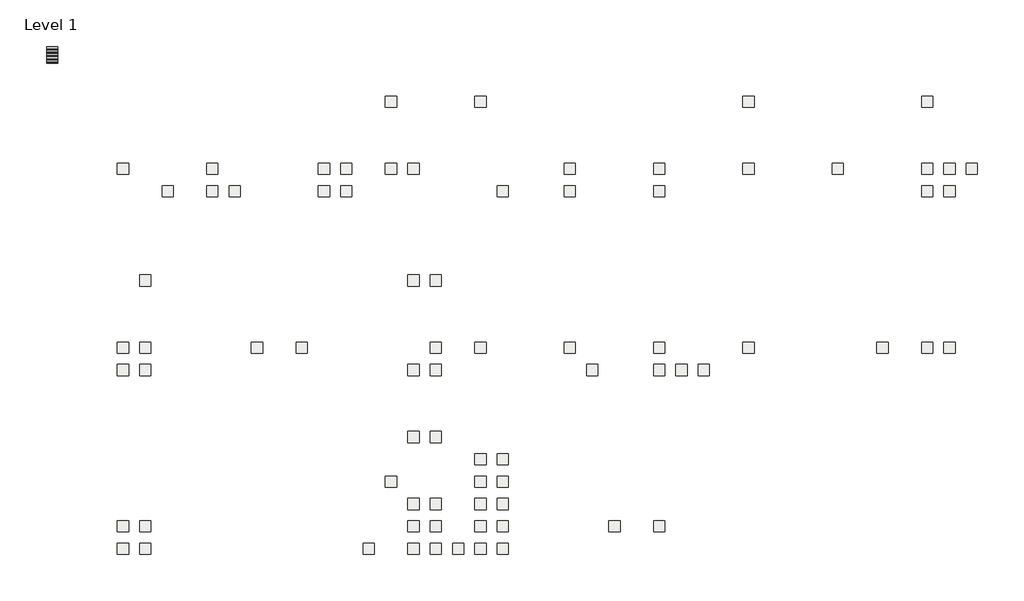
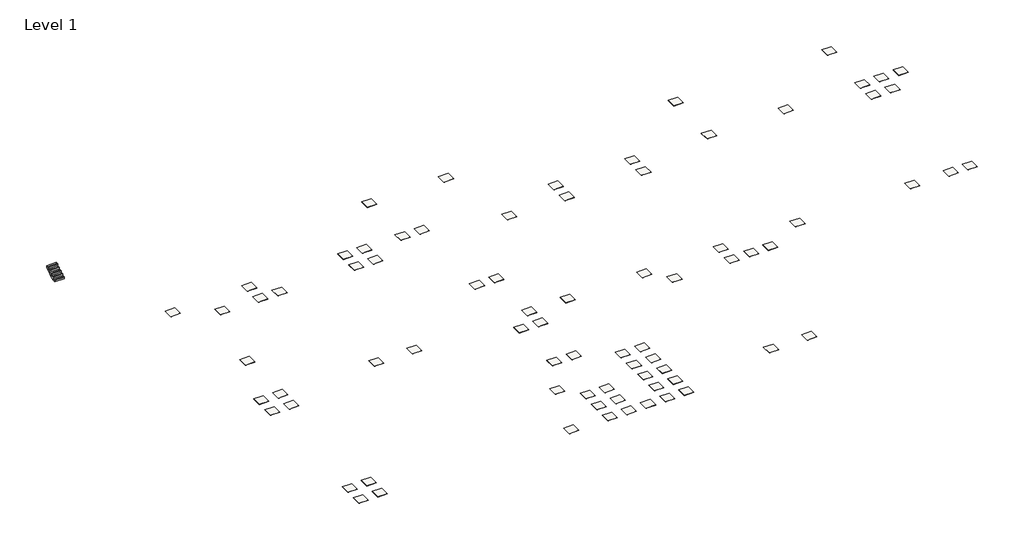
# One storey: 77 coverings, 1 stair flight.
"""IFC4 building model written with IfcOpenShell, lengths in millimetres."""

from ifc_helpers import new_model, si_unit, frame, origin, place, context, project, spatial, polyline, outline, extrude, faceted_brep, element, save

model = new_model("IFC4")

# Units and contexts
model_context = context("Model", 3, world=origin())
ifc_project = project(units=[si_unit("LENGTHUNIT", "METRE", prefix="MILLI")], contexts=[model_context])

# Site, building, storey
site = spatial("IfcSite", under=ifc_project)
building = spatial("IfcBuilding", under=site)
storey = spatial("IfcBuildingStorey", under=building, Name="Level 1", Elevation=0.0)

# Coverings
placement = place(None, origin())
element("IfcCovering", 1, ObjectType="REVIGRÉS-CROMATICA-DG-29.5x59.2-MATTRECT-Cromatica_alloy", at=placement, inside=storey, context=model_context, shape_type="SweptSolid", body=[
    extrude(outline(polyline([(3002.0475963, -31601.5675711), (2002.0475963, -31601.5675711), (2002.0475963, -30601.5675711), (3002.0475963, -30601.5675711), (3002.0475963, -31601.5675711)])), frame((0.0, 0.0, -8.5), z_axis=(0.0, 0.0, 1.0), x_axis=(1.0, 0.0, 0.0)), (0.0, 0.0, 1.0), 8.5),
])
element("IfcCovering", 2, ObjectType="REVIGRÉS-CROMATICA-DG-29.5x29.5-MATTRECT-Cromatica_anis", at=placement, inside=storey, context=model_context, shape_type="SweptSolid", body=[
    extrude(outline(polyline([(11002.0475963, -33601.5675711), (10002.0475963, -33601.5675711), (10002.0475963, -32601.5675711), (11002.0475963, -32601.5675711), (11002.0475963, -33601.5675711)])), frame((0.0, 0.0, -8.5), z_axis=(0.0, 0.0, 1.0), x_axis=(1.0, 0.0, 0.0)), (0.0, 0.0, 1.0), 8.5),
])
element("IfcCovering", 3, ObjectType="REVIGRÉS-CROMATICA-DG-29.5x29.5-POL-Cromatica_anis", at=placement, inside=storey, context=model_context, shape_type="SweptSolid", body=[
    extrude(outline(polyline([(13002.0475963, -33601.5675711), (12002.0475963, -33601.5675711), (12002.0475963, -32601.5675711), (13002.0475963, -32601.5675711), (13002.0475963, -33601.5675711)])), frame((0.0, 0.0, -8.0), z_axis=(0.0, 0.0, 1.0), x_axis=(1.0, 0.0, 0.0)), (0.0, 0.0, 1.0), 8.0),
])
element("IfcCovering", 4, ObjectType="REVIGRÉS-CROMATICA-DG-29.5x29.5-POL-Cromatica_antracite", at=placement, inside=storey, context=model_context, shape_type="SweptSolid", body=[
    extrude(outline(polyline([(21002.0475963, -33601.5675711), (20002.0475963, -33601.5675711), (20002.0475963, -32601.5675711), (21002.0475963, -32601.5675711), (21002.0475963, -33601.5675711)])), frame((0.0, 0.0, -8.0), z_axis=(0.0, 0.0, 1.0), x_axis=(1.0, 0.0, 0.0)), (0.0, 0.0, 1.0), 8.0),
])
element("IfcCovering", 5, ObjectType="REVIGRÉS-CROMATICA-DG-29.5x29.5-SOFT-Cromatica_antracite", at=placement, inside=storey, context=model_context, shape_type="SweptSolid", body=[
    extrude(outline(polyline([(23002.0475963, -33601.5675711), (22002.0475963, -33601.5675711), (22002.0475963, -32601.5675711), (23002.0475963, -32601.5675711), (23002.0475963, -33601.5675711)])), frame((0.0, 0.0, -8.5), z_axis=(0.0, 0.0, 1.0), x_axis=(1.0, 0.0, 0.0)), (0.0, 0.0, 1.0), 8.5),
])
element("IfcCovering", 6, ObjectType="REVIGRÉS-CROMATICA-DG-29.5x59.2-POL-Cromatica_antracite", at=placement, inside=storey, context=model_context, shape_type="SweptSolid", body=[
    extrude(outline(polyline([(21002.0475963, -31601.5675711), (20002.0475963, -31601.5675711), (20002.0475963, -30601.5675711), (21002.0475963, -30601.5675711), (21002.0475963, -31601.5675711)])), frame((0.0, 0.0, -8.0), z_axis=(0.0, 0.0, 1.0), x_axis=(1.0, 0.0, 0.0)), (0.0, 0.0, 1.0), 8.0),
])
element("IfcCovering", 7, ObjectType="REVIGRÉS-CROMATICA-DG-29.5x59.2-SOFT-Cromatica_antracite", at=placement, inside=storey, context=model_context, shape_type="SweptSolid", body=[
    extrude(outline(polyline([(23002.0475963, -31601.5675711), (22002.0475963, -31601.5675711), (22002.0475963, -30601.5675711), (23002.0475963, -30601.5675711), (23002.0475963, -31601.5675711)])), frame((0.0, 0.0, -8.5), z_axis=(0.0, 0.0, 1.0), x_axis=(1.0, 0.0, 0.0)), (0.0, 0.0, 1.0), 8.5),
])
element("IfcCovering", 8, ObjectType="REVIGRÉS-CROMATICA-DG-29.5x59.2-MATTRECT-Cromatica_arg prata", at=placement, inside=storey, context=model_context, shape_type="SweptSolid", body=[
    extrude(outline(polyline([(27002.0475963, -31601.5675711), (26002.0475963, -31601.5675711), (26002.0475963, -30601.5675711), (27002.0475963, -30601.5675711), (27002.0475963, -31601.5675711)])), frame((0.0, 0.0, -8.5), z_axis=(0.0, 0.0, 1.0), x_axis=(1.0, 0.0, 0.0)), (0.0, 0.0, 1.0), 8.5),
])
element("IfcCovering", 9, ObjectType="REVIGRÉS-CROMATICA-DG-29.5x59.2-POL-Cromatica_arg prata", at=placement, inside=storey, context=model_context, shape_type="SweptSolid", body=[
    extrude(outline(polyline([(29002.0475963, -31601.5675711), (28002.0475963, -31601.5675711), (28002.0475963, -30601.5675711), (29002.0475963, -30601.5675711), (29002.0475963, -31601.5675711)])), frame((0.0, 0.0, -8.0), z_axis=(0.0, 0.0, 1.0), x_axis=(1.0, 0.0, 0.0)), (0.0, 0.0, 1.0), 8.0),
])
element("IfcCovering", 10, ObjectType="REVIGRÉS-CROMATICA-DG-59.2x59.2-MATTRECT-Cromatica_arg prata", at=placement, inside=storey, context=model_context, shape_type="SweptSolid", body=[
    extrude(outline(polyline([(27002.0475963, -25601.5675711), (26002.0475963, -25601.5675711), (26002.0475963, -24601.5675711), (27002.0475963, -24601.5675711), (27002.0475963, -25601.5675711)])), frame((0.0, 0.0, -8.5), z_axis=(0.0, 0.0, 1.0), x_axis=(1.0, 0.0, 0.0)), (0.0, 0.0, 1.0), 8.5),
])
element("IfcCovering", 11, ObjectType="REVIGRÉS-CROMATICA-DG-29.5x29.5-POL-Cromatica_bege", at=placement, inside=storey, context=model_context, shape_type="SweptSolid", body=[
    extrude(outline(polyline([(37002.0475963, -33601.5675711), (36002.0475963, -33601.5675711), (36002.0475963, -32601.5675711), (37002.0475963, -32601.5675711), (37002.0475963, -33601.5675711)])), frame((0.0, 0.0, -8.0), z_axis=(0.0, 0.0, 1.0), x_axis=(1.0, 0.0, 0.0)), (0.0, 0.0, 1.0), 8.0),
])
element("IfcCovering", 12, ObjectType="REVIGRÉS-CROMATICA-DG-29.5x29.5-MATTRECT-Cromatica_bone", at=placement, inside=storey, context=model_context, shape_type="SweptSolid", body=[
    extrude(outline(polyline([(43002.0475963, -33601.5675711), (42002.0475963, -33601.5675711), (42002.0475963, -32601.5675711), (43002.0475963, -32601.5675711), (43002.0475963, -33601.5675711)])), frame((0.0, 0.0, -8.5), z_axis=(0.0, 0.0, 1.0), x_axis=(1.0, 0.0, 0.0)), (0.0, 0.0, 1.0), 8.5),
])
element("IfcCovering", 13, ObjectType="REVIGRÉS-CROMATICA-DG-29.5x59.2-MATTRECT-Cromatica_bone", at=placement, inside=storey, context=model_context, shape_type="SweptSolid", body=[
    extrude(outline(polyline([(43002.0475963, -31601.5675711), (42002.0475963, -31601.5675711), (42002.0475963, -30601.5675711), (43002.0475963, -30601.5675711), (43002.0475963, -31601.5675711)])), frame((0.0, 0.0, -8.5), z_axis=(0.0, 0.0, 1.0), x_axis=(1.0, 0.0, 0.0)), (0.0, 0.0, 1.0), 8.5),
])
element("IfcCovering", 14, ObjectType="REVIGRÉS-CROMATICA-DG-29.5x29.5-MATTRECT-Cromatica_brick", at=placement, inside=storey, context=model_context, shape_type="SweptSolid", body=[
    extrude(outline(polyline([(51002.0475963, -33601.5675711), (50002.0475963, -33601.5675711), (50002.0475963, -32601.5675711), (51002.0475963, -32601.5675711), (51002.0475963, -33601.5675711)])), frame((0.0, 0.0, -8.5), z_axis=(0.0, 0.0, 1.0), x_axis=(1.0, 0.0, 0.0)), (0.0, 0.0, 1.0), 8.5),
])
element("IfcCovering", 15, ObjectType="REVIGRÉS-CROMATICA-DG-29.5x59.2-MATTRECT-Cromatica_brick", at=placement, inside=storey, context=model_context, shape_type="SweptSolid", body=[
    extrude(outline(polyline([(51002.0475963, -31601.5675711), (50002.0475963, -31601.5675711), (50002.0475963, -30601.5675711), (51002.0475963, -30601.5675711), (51002.0475963, -31601.5675711)])), frame((0.0, 0.0, -8.5), z_axis=(0.0, 0.0, 1.0), x_axis=(1.0, 0.0, 0.0)), (0.0, 0.0, 1.0), 8.5),
])
element("IfcCovering", 16, ObjectType="REVIGRÉS-CROMATICA-DG-29.5x59.2-MATTRECT-Cromatica_cobalto", at=placement, inside=storey, context=model_context, shape_type="SweptSolid", body=[
    extrude(outline(polyline([(59002.0475963, -31601.567571), (58002.0475963, -31601.567571), (58002.0475963, -30601.567571), (59002.0475963, -30601.567571), (59002.0475963, -31601.567571)])), frame((0.0, 0.0, -8.5), z_axis=(0.0, 0.0, 1.0), x_axis=(1.0, 0.0, 0.0)), (0.0, 0.0, 1.0), 8.5),
])
element("IfcCovering", 17, ObjectType="REVIGRÉS-CROMATICA-DG-59.2x59.2-MATTRECT-Cromatica_cobalto", at=placement, inside=storey, context=model_context, shape_type="SweptSolid", body=[
    extrude(outline(polyline([(59002.0475963, -25601.567571), (58002.0475963, -25601.567571), (58002.0475963, -24601.567571), (59002.0475963, -24601.567571), (59002.0475963, -25601.567571)])), frame((0.0, 0.0, -8.5), z_axis=(0.0, 0.0, 1.0), x_axis=(1.0, 0.0, 0.0)), (0.0, 0.0, 1.0), 8.5),
])
element("IfcCovering", 18, ObjectType="REVIGRÉS-CROMATICA-DG-29.5x59.2-MATTRECT-Cromatica_coral", at=placement, inside=storey, context=model_context, shape_type="SweptSolid", body=[
    extrude(outline(polyline([(67002.0475963, -31601.567571), (66002.0475963, -31601.567571), (66002.0475963, -30601.567571), (67002.0475963, -30601.567571), (67002.0475963, -31601.567571)])), frame((0.0, 0.0, -8.5), z_axis=(0.0, 0.0, 1.0), x_axis=(1.0, 0.0, 0.0)), (0.0, 0.0, 1.0), 8.5),
])
element("IfcCovering", 19, ObjectType="REVIGRÉS-CROMATICA-DG-29.5x29.5-MATTRECT-Cromatica_grafite", at=placement, inside=storey, context=model_context, shape_type="SweptSolid", body=[
    extrude(outline(polyline([(75002.0475963, -33601.567571), (74002.0475963, -33601.567571), (74002.0475963, -32601.567571), (75002.0475963, -32601.567571), (75002.0475963, -33601.567571)])), frame((0.0, 0.0, -8.5), z_axis=(0.0, 0.0, 1.0), x_axis=(1.0, 0.0, 0.0)), (0.0, 0.0, 1.0), 8.5),
])
element("IfcCovering", 20, ObjectType="REVIGRÉS-CROMATICA-DG-29.5x29.5-POL-Cromatica_grafite", at=placement, inside=storey, context=model_context, shape_type="SweptSolid", body=[
    extrude(outline(polyline([(77002.0475963, -33601.567571), (76002.0475963, -33601.567571), (76002.0475963, -32601.567571), (77002.0475963, -32601.567571), (77002.0475963, -33601.567571)])), frame((0.0, 0.0, -8.0), z_axis=(0.0, 0.0, 1.0), x_axis=(1.0, 0.0, 0.0)), (0.0, 0.0, 1.0), 8.0),
])
element("IfcCovering", 21, ObjectType="REVIGRÉS-CROMATICA-DG-29.5x59.2-MATTRECT-Cromatica_grafite", at=placement, inside=storey, context=model_context, shape_type="SweptSolid", body=[
    extrude(outline(polyline([(75002.0475963, -31601.567571), (74002.0475963, -31601.567571), (74002.0475963, -30601.567571), (75002.0475963, -30601.567571), (75002.0475963, -31601.567571)])), frame((0.0, 0.0, -8.5), z_axis=(0.0, 0.0, 1.0), x_axis=(1.0, 0.0, 0.0)), (0.0, 0.0, 1.0), 8.5),
])
element("IfcCovering", 22, ObjectType="REVIGRÉS-CROMATICA-DG-29.5x59.2-POL-Cromatica_grafite", at=placement, inside=storey, context=model_context, shape_type="SweptSolid", body=[
    extrude(outline(polyline([(77002.0475963, -31601.567571), (76002.0475963, -31601.567571), (76002.0475963, -30601.567571), (77002.0475963, -30601.567571), (77002.0475963, -31601.567571)])), frame((0.0, 0.0, -8.0), z_axis=(0.0, 0.0, 1.0), x_axis=(1.0, 0.0, 0.0)), (0.0, 0.0, 1.0), 8.0),
])
element("IfcCovering", 23, ObjectType="REVIGRÉS-CROMATICA-DG-59.2x59.2-MATTRECT-Cromatica_grafite", at=placement, inside=storey, context=model_context, shape_type="SweptSolid", body=[
    extrude(outline(polyline([(75002.0475963, -25601.567571), (74002.0475963, -25601.567571), (74002.0475963, -24601.567571), (75002.0475963, -24601.567571), (75002.0475963, -25601.567571)])), frame((0.0, 0.0, -8.5), z_axis=(0.0, 0.0, 1.0), x_axis=(1.0, 0.0, 0.0)), (0.0, 0.0, 1.0), 8.5),
])
element("IfcCovering", 24, ObjectType="REVIGRÉS-CROMATICA-DG-29.5x29.5-MATTRECT-Cromatica_ice", at=placement, inside=storey, context=model_context, shape_type="SweptSolid", body=[
    extrude(outline(polyline([(3002.0475963, -49601.567571), (2002.0475963, -49601.567571), (2002.0475963, -48601.567571), (3002.0475963, -48601.567571), (3002.0475963, -49601.567571)])), frame((0.0, 0.0, -8.5), z_axis=(0.0, 0.0, 1.0), x_axis=(1.0, 0.0, 0.0)), (0.0, 0.0, 1.0), 8.5),
])
element("IfcCovering", 25, ObjectType="REVIGRÉS-CROMATICA-DG-29.5x29.5-POL-Cromatica_ice", at=placement, inside=storey, context=model_context, shape_type="SweptSolid", body=[
    extrude(outline(polyline([(5002.0475963, -49601.567571), (4002.0475963, -49601.567571), (4002.0475963, -48601.567571), (5002.0475963, -48601.567571), (5002.0475963, -49601.567571)])), frame((0.0, 0.0, -8.0), z_axis=(0.0, 0.0, 1.0), x_axis=(1.0, 0.0, 0.0)), (0.0, 0.0, 1.0), 8.0),
])
element("IfcCovering", 26, ObjectType="REVIGRÉS-CROMATICA-DG-29.5x59.2-MATTRECT-Cromatica_ice", at=placement, inside=storey, context=model_context, shape_type="SweptSolid", body=[
    extrude(outline(polyline([(3002.0475963, -47601.567571), (2002.0475963, -47601.567571), (2002.0475963, -46601.567571), (3002.0475963, -46601.567571), (3002.0475963, -47601.567571)])), frame((0.0, 0.0, -8.5), z_axis=(0.0, 0.0, 1.0), x_axis=(1.0, 0.0, 0.0)), (0.0, 0.0, 1.0), 8.5),
])
element("IfcCovering", 27, ObjectType="REVIGRÉS-CROMATICA-DG-29.5x59.2-POL-Cromatica_ice", at=placement, inside=storey, context=model_context, shape_type="SweptSolid", body=[
    extrude(outline(polyline([(5002.0475963, -47601.567571), (4002.0475963, -47601.567571), (4002.0475963, -46601.567571), (5002.0475963, -46601.567571), (5002.0475963, -47601.567571)])), frame((0.0, 0.0, -8.0), z_axis=(0.0, 0.0, 1.0), x_axis=(1.0, 0.0, 0.0)), (0.0, 0.0, 1.0), 8.0),
])
element("IfcCovering", 28, ObjectType="REVIGRÉS-CROMATICA-DG-59.2x59.2-POL-Cromatica_ice", at=placement, inside=storey, context=model_context, shape_type="SweptSolid", body=[
    extrude(outline(polyline([(5002.0475963, -41601.567571), (4002.0475963, -41601.567571), (4002.0475963, -40601.567571), (5002.0475963, -40601.567571), (5002.0475963, -41601.567571)])), frame((0.0, 0.0, -8.0), z_axis=(0.0, 0.0, 1.0), x_axis=(1.0, 0.0, 0.0)), (0.0, 0.0, 1.0), 8.0),
])
element("IfcCovering", 29, ObjectType="REVIGRÉS-CROMATICA-DG-29.5x59.2-SOFT-Cromatica_indigo", at=placement, inside=storey, context=model_context, shape_type="SweptSolid", body=[
    extrude(outline(polyline([(15002.0475963, -47601.567571), (14002.0475963, -47601.567571), (14002.0475963, -46601.567571), (15002.0475963, -46601.567571), (15002.0475963, -47601.567571)])), frame((0.0, 0.0, -8.5), z_axis=(0.0, 0.0, 1.0), x_axis=(1.0, 0.0, 0.0)), (0.0, 0.0, 1.0), 8.5),
])
element("IfcCovering", 30, ObjectType="REVIGRÉS-CROMATICA-DG-29.5x59.2-MATTRECT-Cromatica_jade", at=placement, inside=storey, context=model_context, shape_type="SweptSolid", body=[
    extrude(outline(polyline([(19002.0475963, -47601.567571), (18002.0475963, -47601.567571), (18002.0475963, -46601.567571), (19002.0475963, -46601.567571), (19002.0475963, -47601.567571)])), frame((0.0, 0.0, -8.5), z_axis=(0.0, 0.0, 1.0), x_axis=(1.0, 0.0, 0.0)), (0.0, 0.0, 1.0), 8.5),
])
element("IfcCovering", 31, ObjectType="REVIGRÉS-CROMATICA-DG-29.5x29.5-POL-Cromatica_jet", at=placement, inside=storey, context=model_context, shape_type="SweptSolid", body=[
    extrude(outline(polyline([(29002.0475963, -49601.567571), (28002.0475963, -49601.567571), (28002.0475963, -48601.567571), (29002.0475963, -48601.567571), (29002.0475963, -49601.567571)])), frame((0.0, 0.0, -8.0), z_axis=(0.0, 0.0, 1.0), x_axis=(1.0, 0.0, 0.0)), (0.0, 0.0, 1.0), 8.0),
])
element("IfcCovering", 32, ObjectType="REVIGRÉS-CROMATICA-DG-29.5x29.5-SOFT-Cromatica_jet", at=placement, inside=storey, context=model_context, shape_type="SweptSolid", body=[
    extrude(outline(polyline([(31002.0475963, -49601.567571), (30002.0475963, -49601.567571), (30002.0475963, -48601.567571), (31002.0475963, -48601.567571), (31002.0475963, -49601.567571)])), frame((0.0, 0.0, -8.5), z_axis=(0.0, 0.0, 1.0), x_axis=(1.0, 0.0, 0.0)), (0.0, 0.0, 1.0), 8.5),
])
element("IfcCovering", 33, ObjectType="REVIGRÉS-CROMATICA-DG-59.2x59.2-SOFT-Cromatica_jet", at=placement, inside=storey, context=model_context, shape_type="SweptSolid", body=[
    extrude(outline(polyline([(31002.0475963, -41601.567571), (30002.0475963, -41601.567571), (30002.0475963, -40601.567571), (31002.0475963, -40601.567571), (31002.0475963, -41601.567571)])), frame((0.0, 0.0, -8.5), z_axis=(0.0, 0.0, 1.0), x_axis=(1.0, 0.0, 0.0)), (0.0, 0.0, 1.0), 8.5),
])
element("IfcCovering", 34, ObjectType="REVIGRÉS-CROMATICA-DG-59.2x59.2-POL-Cromatica_jet", at=placement, inside=storey, context=model_context, shape_type="SweptSolid", body=[
    extrude(outline(polyline([(29002.0475963, -41601.567571), (28002.0475963, -41601.567571), (28002.0475963, -40601.567571), (29002.0475963, -40601.567571), (29002.0475963, -41601.567571)])), frame((0.0, 0.0, -8.0), z_axis=(0.0, 0.0, 1.0), x_axis=(1.0, 0.0, 0.0)), (0.0, 0.0, 1.0), 8.0),
])
element("IfcCovering", 35, ObjectType="REVIGRÉS-CROMATICA-DG-29.5x59.2-MATTRECT-Cromatica_lava", at=placement, inside=storey, context=model_context, shape_type="SweptSolid", body=[
    extrude(outline(polyline([(35002.0475963, -47601.567571), (34002.0475963, -47601.567571), (34002.0475963, -46601.567571), (35002.0475963, -46601.567571), (35002.0475963, -47601.567571)])), frame((0.0, 0.0, -8.5), z_axis=(0.0, 0.0, 1.0), x_axis=(1.0, 0.0, 0.0)), (0.0, 0.0, 1.0), 8.5),
])
element("IfcCovering", 36, ObjectType="REVIGRÉS-CROMATICA-DG-29.5x29.5-POL-Cromatica_ocre", at=placement, inside=storey, context=model_context, shape_type="SweptSolid", body=[
    extrude(outline(polyline([(45002.0475963, -49601.567571), (44002.0475963, -49601.567571), (44002.0475963, -48601.567571), (45002.0475963, -48601.567571), (45002.0475963, -49601.567571)])), frame((0.0, 0.0, -8.0), z_axis=(0.0, 0.0, 1.0), x_axis=(1.0, 0.0, 0.0)), (0.0, 0.0, 1.0), 8.0),
])
element("IfcCovering", 37, ObjectType="REVIGRÉS-CROMATICA-DG-29.5x59.2-MATTRECT-Cromatica_ocre", at=placement, inside=storey, context=model_context, shape_type="SweptSolid", body=[
    extrude(outline(polyline([(43002.0475963, -47601.567571), (42002.0475963, -47601.567571), (42002.0475963, -46601.567571), (43002.0475963, -46601.567571), (43002.0475963, -47601.567571)])), frame((0.0, 0.0, -8.5), z_axis=(0.0, 0.0, 1.0), x_axis=(1.0, 0.0, 0.0)), (0.0, 0.0, 1.0), 8.5),
])
element("IfcCovering", 38, ObjectType="REVIGRÉS-CROMATICA-DG-29.5x29.5-POL-Cromatica_oliva", at=placement, inside=storey, context=model_context, shape_type="SweptSolid", body=[
    extrude(outline(polyline([(53002.0475963, -49601.567571), (52002.0475963, -49601.567571), (52002.0475963, -48601.567571), (53002.0475963, -48601.567571), (53002.0475963, -49601.567571)])), frame((0.0, 0.0, -8.0), z_axis=(0.0, 0.0, 1.0), x_axis=(1.0, 0.0, 0.0)), (0.0, 0.0, 1.0), 8.0),
])
element("IfcCovering", 39, ObjectType="REVIGRÉS-CROMATICA-DG-29.5x29.5-SOFT-Cromatica_oliva", at=placement, inside=storey, context=model_context, shape_type="SweptSolid", body=[
    extrude(outline(polyline([(55002.0475963, -49601.567571), (54002.0475963, -49601.567571), (54002.0475963, -48601.567571), (55002.0475963, -48601.567571), (55002.0475963, -49601.567571)])), frame((0.0, 0.0, -8.5), z_axis=(0.0, 0.0, 1.0), x_axis=(1.0, 0.0, 0.0)), (0.0, 0.0, 1.0), 8.5),
])
element("IfcCovering", 40, ObjectType="REVIGRÉS-CROMATICA-DG-29.5x59.2-MATTRECT-Cromatica_oliva", at=placement, inside=storey, context=model_context, shape_type="SweptSolid", body=[
    extrude(outline(polyline([(51002.0475963, -47601.567571), (50002.0475963, -47601.567571), (50002.0475963, -46601.567571), (51002.0475963, -46601.567571), (51002.0475963, -47601.567571)])), frame((0.0, 0.0, -8.5), z_axis=(0.0, 0.0, 1.0), x_axis=(1.0, 0.0, 0.0)), (0.0, 0.0, 1.0), 8.5),
])
element("IfcCovering", 41, ObjectType="REVIGRÉS-CROMATICA-DG-29.5x59.2-MATTRECT-Cromatica_opala", at=placement, inside=storey, context=model_context, shape_type="SweptSolid", body=[
    extrude(outline(polyline([(59002.0475963, -47601.567571), (58002.0475963, -47601.567571), (58002.0475963, -46601.567571), (59002.0475963, -46601.567571), (59002.0475963, -47601.567571)])), frame((0.0, 0.0, -8.5), z_axis=(0.0, 0.0, 1.0), x_axis=(1.0, 0.0, 0.0)), (0.0, 0.0, 1.0), 8.5),
])
element("IfcCovering", 42, ObjectType="REVIGRÉS-CROMATICA-DG-29.5x59.2-SOFT-Cromatica_palm", at=placement, inside=storey, context=model_context, shape_type="SweptSolid", body=[
    extrude(outline(polyline([(71002.0475963, -47601.567571), (70002.0475963, -47601.567571), (70002.0475963, -46601.567571), (71002.0475963, -46601.567571), (71002.0475963, -47601.567571)])), frame((0.0, 0.0, -8.5), z_axis=(0.0, 0.0, 1.0), x_axis=(1.0, 0.0, 0.0)), (0.0, 0.0, 1.0), 8.5),
])
element("IfcCovering", 43, ObjectType="REVIGRÉS-CROMATICA-DG-29.5x59.2-MATTRECT-Cromatica_pistachio", at=placement, inside=storey, context=model_context, shape_type="SweptSolid", body=[
    extrude(outline(polyline([(75002.0475963, -47601.567571), (74002.0475963, -47601.567571), (74002.0475963, -46601.567571), (75002.0475963, -46601.567571), (75002.0475963, -47601.567571)])), frame((0.0, 0.0, -8.5), z_axis=(0.0, 0.0, 1.0), x_axis=(1.0, 0.0, 0.0)), (0.0, 0.0, 1.0), 8.5),
])
element("IfcCovering", 44, ObjectType="REVIGRÉS-CROMATICA-DG-29.5x59.2-POL-Cromatica_pistachio", at=placement, inside=storey, context=model_context, shape_type="SweptSolid", body=[
    extrude(outline(polyline([(77002.0475963, -47601.567571), (76002.0475963, -47601.567571), (76002.0475963, -46601.567571), (77002.0475963, -46601.567571), (77002.0475963, -47601.567571)])), frame((0.0, 0.0, -8.0), z_axis=(0.0, 0.0, 1.0), x_axis=(1.0, 0.0, 0.0)), (0.0, 0.0, 1.0), 8.0),
])
element("IfcCovering", 45, ObjectType="REVIGRÉS-CROMATICA-DG-29.5x29.5-MATTRECT-Cromatica_platina", at=placement, inside=storey, context=model_context, shape_type="SweptSolid", body=[
    extrude(outline(polyline([(3002.0475963, -65601.567571), (2002.0475963, -65601.567571), (2002.0475963, -64601.567571), (3002.0475963, -64601.567571), (3002.0475963, -65601.567571)])), frame((0.0, 0.0, -8.5), z_axis=(0.0, 0.0, 1.0), x_axis=(1.0, 0.0, 0.0)), (0.0, 0.0, 1.0), 8.5),
])
element("IfcCovering", 46, ObjectType="REVIGRÉS-CROMATICA-DG-29.5x29.5-POL-Cromatica_platina", at=placement, inside=storey, context=model_context, shape_type="SweptSolid", body=[
    extrude(outline(polyline([(5002.0475963, -65601.567571), (4002.0475963, -65601.567571), (4002.0475963, -64601.567571), (5002.0475963, -64601.567571), (5002.0475963, -65601.567571)])), frame((0.0, 0.0, -8.0), z_axis=(0.0, 0.0, 1.0), x_axis=(1.0, 0.0, 0.0)), (0.0, 0.0, 1.0), 8.0),
])
element("IfcCovering", 47, ObjectType="REVIGRÉS-CROMATICA-DG-29.5x59.2-MATTRECT-Cromatica_platina", at=placement, inside=storey, context=model_context, shape_type="SweptSolid", body=[
    extrude(outline(polyline([(3002.0475963, -63601.567571), (2002.0475963, -63601.567571), (2002.0475963, -62601.567571), (3002.0475963, -62601.567571), (3002.0475963, -63601.567571)])), frame((0.0, 0.0, -8.5), z_axis=(0.0, 0.0, 1.0), x_axis=(1.0, 0.0, 0.0)), (0.0, 0.0, 1.0), 8.5),
])
element("IfcCovering", 48, ObjectType="REVIGRÉS-CROMATICA-DG-29.5x59.2-POL-Cromatica_platina", at=placement, inside=storey, context=model_context, shape_type="SweptSolid", body=[
    extrude(outline(polyline([(5002.0475963, -63601.567571), (4002.0475963, -63601.567571), (4002.0475963, -62601.567571), (5002.0475963, -62601.567571), (5002.0475963, -63601.567571)])), frame((0.0, 0.0, -8.0), z_axis=(0.0, 0.0, 1.0), x_axis=(1.0, 0.0, 0.0)), (0.0, 0.0, 1.0), 8.0),
])
element("IfcCovering", 49, ObjectType="REVIGRÉS-CROMATICA-DG-29.5x29.5-MATTNAT-Cromatica_preto", at=placement, inside=storey, context=model_context, shape_type="SweptSolid", body=[
    extrude(outline(polyline([(25002.0475963, -65601.567571), (24002.0475963, -65601.567571), (24002.0475963, -64601.567571), (25002.0475963, -64601.567571), (25002.0475963, -65601.567571)])), frame((0.0, 0.0, -8.5), z_axis=(0.0, 0.0, 1.0), x_axis=(1.0, 0.0, 0.0)), (0.0, 0.0, 1.0), 8.5),
])
element("IfcCovering", 50, ObjectType="REVIGRÉS-CROMATICA-DG-29.5x29.5-POL-Cromatica_preto", at=placement, inside=storey, context=model_context, shape_type="SweptSolid", body=[
    extrude(outline(polyline([(29002.0475963, -65601.567571), (28002.0475963, -65601.567571), (28002.0475963, -64601.567571), (29002.0475963, -64601.567571), (29002.0475963, -65601.567571)])), frame((0.0, 0.0, -8.0), z_axis=(0.0, 0.0, 1.0), x_axis=(1.0, 0.0, 0.0)), (0.0, 0.0, 1.0), 8.0),
])
element("IfcCovering", 51, ObjectType="REVIGRÉS-CROMATICA-DG-29.5x29.5-SOFT-Cromatica_preto", at=placement, inside=storey, context=model_context, shape_type="SweptSolid", body=[
    extrude(outline(polyline([(31002.0475963, -65601.567571), (30002.0475963, -65601.567571), (30002.0475963, -64601.567571), (31002.0475963, -64601.567571), (31002.0475963, -65601.567571)])), frame((0.0, 0.0, -8.5), z_axis=(0.0, 0.0, 1.0), x_axis=(1.0, 0.0, 0.0)), (0.0, 0.0, 1.0), 8.5),
])
element("IfcCovering", 52, ObjectType="REVIGRÉS-CROMATICA-DG-29.5x59.2-POL-Cromatica_preto", at=placement, inside=storey, context=model_context, shape_type="SweptSolid", body=[
    extrude(outline(polyline([(29002.0475963, -63601.567571), (28002.0475963, -63601.567571), (28002.0475963, -62601.567571), (29002.0475963, -62601.567571), (29002.0475963, -63601.567571)])), frame((0.0, 0.0, -8.0), z_axis=(0.0, 0.0, 1.0), x_axis=(1.0, 0.0, 0.0)), (0.0, 0.0, 1.0), 8.0),
])
element("IfcCovering", 53, ObjectType="REVIGRÉS-CROMATICA-DG-29.5x59.2-SOFT-Cromatica_preto", at=placement, inside=storey, context=model_context, shape_type="SweptSolid", body=[
    extrude(outline(polyline([(31002.0475963, -63601.567571), (30002.0475963, -63601.567571), (30002.0475963, -62601.567571), (31002.0475963, -62601.567571), (31002.0475963, -63601.567571)])), frame((0.0, 0.0, -8.5), z_axis=(0.0, 0.0, 1.0), x_axis=(1.0, 0.0, 0.0)), (0.0, 0.0, 1.0), 8.5),
])
element("IfcCovering", 54, ObjectType="REVIGRÉS-CROMATICA-DG-29.5x118.6-SOFT-Cromatica_preto", at=placement, inside=storey, context=model_context, shape_type="SweptSolid", body=[
    extrude(outline(polyline([(31002.0475963, -61601.567571), (30002.0475963, -61601.567571), (30002.0475963, -60601.567571), (31002.0475963, -60601.567571), (31002.0475963, -61601.567571)])), frame((0.0, 0.0, -9.8), z_axis=(0.0, 0.0, 1.0), x_axis=(1.0, 0.0, 0.0)), (0.0, 0.0, 1.0), 9.8),
])
element("IfcCovering", 55, ObjectType="REVIGRÉS-CROMATICA-DG-29.5x118.6-POL-Cromatica_preto", at=placement, inside=storey, context=model_context, shape_type="SweptSolid", body=[
    extrude(outline(polyline([(29002.0475963, -61601.567571), (28002.0475963, -61601.567571), (28002.0475963, -60601.567571), (29002.0475963, -60601.567571), (29002.0475963, -61601.567571)])), frame((0.0, 0.0, -9.3), z_axis=(0.0, 0.0, 1.0), x_axis=(1.0, 0.0, 0.0)), (0.0, 0.0, 1.0), 9.3),
])
element("IfcCovering", 56, ObjectType="REVIGRÉS-CROMATICA-DG-59.2x118.6-SOFT-Cromatica_preto", at=placement, inside=storey, context=model_context, shape_type="SweptSolid", body=[
    extrude(outline(polyline([(31002.0475963, -55601.567571), (30002.0475963, -55601.567571), (30002.0475963, -54601.567571), (31002.0475963, -54601.567571), (31002.0475963, -55601.567571)])), frame((0.0, 0.0, -9.8), z_axis=(0.0, 0.0, 1.0), x_axis=(1.0, 0.0, 0.0)), (0.0, 0.0, 1.0), 9.8),
])
element("IfcCovering", 57, ObjectType="REVIGRÉS-CROMATICA-DG-29.5x29.5-MATTNAT-Cromatica_superbranco", at=placement, inside=storey, context=model_context, shape_type="SweptSolid", body=[
    extrude(outline(polyline([(33002.0475963, -65601.567571), (32002.0475963, -65601.567571), (32002.0475963, -64601.567571), (33002.0475963, -64601.567571), (33002.0475963, -65601.567571)])), frame((0.0, 0.0, -8.5), z_axis=(0.0, 0.0, 1.0), x_axis=(1.0, 0.0, 0.0)), (0.0, 0.0, 1.0), 8.5),
])
element("IfcCovering", 58, ObjectType="REVIGRÉS-CROMATICA-DG-29.5x29.5-MATTRECT-Cromatica_superbranco", at=placement, inside=storey, context=model_context, shape_type="SweptSolid", body=[
    extrude(outline(polyline([(35002.0475963, -65601.567571), (34002.0475963, -65601.567571), (34002.0475963, -64601.567571), (35002.0475963, -64601.567571), (35002.0475963, -65601.567571)])), frame((0.0, 0.0, -8.5), z_axis=(0.0, 0.0, 1.0), x_axis=(1.0, 0.0, 0.0)), (0.0, 0.0, 1.0), 8.5),
])
element("IfcCovering", 59, ObjectType="REVIGRÉS-CROMATICA-DG-29.5x29.5-POL-Cromatica_superbranco", at=placement, inside=storey, context=model_context, shape_type="SweptSolid", body=[
    extrude(outline(polyline([(37002.0475963, -65601.567571), (36002.0475963, -65601.567571), (36002.0475963, -64601.567571), (37002.0475963, -64601.567571), (37002.0475963, -65601.567571)])), frame((0.0, 0.0, -8.0), z_axis=(0.0, 0.0, 1.0), x_axis=(1.0, 0.0, 0.0)), (0.0, 0.0, 1.0), 8.0),
])
element("IfcCovering", 60, ObjectType="REVIGRÉS-CROMATICA-DG-29.5x59.2-MATTRECT-Cromatica_superbranco", at=placement, inside=storey, context=model_context, shape_type="SweptSolid", body=[
    extrude(outline(polyline([(35002.0475963, -63601.567571), (34002.0475963, -63601.567571), (34002.0475963, -62601.567571), (35002.0475963, -62601.567571), (35002.0475963, -63601.567571)])), frame((0.0, 0.0, -8.5), z_axis=(0.0, 0.0, 1.0), x_axis=(1.0, 0.0, 0.0)), (0.0, 0.0, 1.0), 8.5),
])
element("IfcCovering", 61, ObjectType="REVIGRÉS-CROMATICA-DG-29.5x59.2-POL-Cromatica_superbranco", at=placement, inside=storey, context=model_context, shape_type="SweptSolid", body=[
    extrude(outline(polyline([(37002.0475963, -63601.567571), (36002.0475963, -63601.567571), (36002.0475963, -62601.567571), (37002.0475963, -62601.567571), (37002.0475963, -63601.567571)])), frame((0.0, 0.0, -8.0), z_axis=(0.0, 0.0, 1.0), x_axis=(1.0, 0.0, 0.0)), (0.0, 0.0, 1.0), 8.0),
])
element("IfcCovering", 62, ObjectType="REVIGRÉS-CROMATICA-DG-29.5x118.6-MATTRECT-Cromatica_superbranco", at=placement, inside=storey, context=model_context, shape_type="SweptSolid", body=[
    extrude(outline(polyline([(35002.0475963, -61601.567571), (34002.0475963, -61601.567571), (34002.0475963, -60601.567571), (35002.0475963, -60601.567571), (35002.0475963, -61601.567571)])), frame((0.0, 0.0, -9.8), z_axis=(0.0, 0.0, 1.0), x_axis=(1.0, 0.0, 0.0)), (0.0, 0.0, 1.0), 9.8),
])
element("IfcCovering", 63, ObjectType="REVIGRÉS-CROMATICA-DG-29.5x118.6-POL-Cromatica_superbranco", at=placement, inside=storey, context=model_context, shape_type="SweptSolid", body=[
    extrude(outline(polyline([(37002.0475963, -61601.567571), (36002.0475963, -61601.567571), (36002.0475963, -60601.567571), (37002.0475963, -60601.567571), (37002.0475963, -61601.567571)])), frame((0.0, 0.0, -9.3), z_axis=(0.0, 0.0, 1.0), x_axis=(1.0, 0.0, 0.0)), (0.0, 0.0, 1.0), 9.3),
])
element("IfcCovering", 64, ObjectType="REVIGRÉS-CROMATICA-DG-44.35x88.9-MATTRECT-Cromatica_superbranco", at=placement, inside=storey, context=model_context, shape_type="SweptSolid", body=[
    extrude(outline(polyline([(35002.0475963, -59601.567571), (34002.0475963, -59601.567571), (34002.0475963, -58601.567571), (35002.0475963, -58601.567571), (35002.0475963, -59601.567571)])), frame((0.0, 0.0, -10.5), z_axis=(0.0, 0.0, 1.0), x_axis=(1.0, 0.0, 0.0)), (0.0, 0.0, 1.0), 10.5),
])
element("IfcCovering", 65, ObjectType="REVIGRÉS-CROMATICA-DG-44.35x88.9-POL-Cromatica_superbranco", at=placement, inside=storey, context=model_context, shape_type="SweptSolid", body=[
    extrude(outline(polyline([(37002.0475963, -59601.567571), (36002.0475963, -59601.567571), (36002.0475963, -58601.567571), (37002.0475963, -58601.567571), (37002.0475963, -59601.567571)])), frame((0.0, 0.0, -9.8), z_axis=(0.0, 0.0, 1.0), x_axis=(1.0, 0.0, 0.0)), (0.0, 0.0, 1.0), 9.8),
])
element("IfcCovering", 66, ObjectType="REVIGRÉS-CROMATICA-DG-59.2x59.2-MATTRECT-Cromatica_superbranco", at=placement, inside=storey, context=model_context, shape_type="SweptSolid", body=[
    extrude(outline(polyline([(35002.0475963, -57601.567571), (34002.0475963, -57601.567571), (34002.0475963, -56601.567571), (35002.0475963, -56601.567571), (35002.0475963, -57601.567571)])), frame((0.0, 0.0, -8.5), z_axis=(0.0, 0.0, 1.0), x_axis=(1.0, 0.0, 0.0)), (0.0, 0.0, 1.0), 8.5),
])
element("IfcCovering", 67, ObjectType="REVIGRÉS-CROMATICA-DG-59.2x59.2-POL-Cromatica_superbranco", at=placement, inside=storey, context=model_context, shape_type="SweptSolid", body=[
    extrude(outline(polyline([(37002.0475963, -57601.567571), (36002.0475963, -57601.567571), (36002.0475963, -56601.567571), (37002.0475963, -56601.567571), (37002.0475963, -57601.567571)])), frame((0.0, 0.0, -8.0), z_axis=(0.0, 0.0, 1.0), x_axis=(1.0, 0.0, 0.0)), (0.0, 0.0, 1.0), 8.0),
])
element("IfcCovering", 68, ObjectType="REVIGRÉS-CROMATICA-DG-29.5x59.2-SOFT-Cromatica_terracotta", at=placement, inside=storey, context=model_context, shape_type="SweptSolid", body=[
    extrude(outline(polyline([(47002.0475963, -63601.567571), (46002.0475963, -63601.567571), (46002.0475963, -62601.567571), (47002.0475963, -62601.567571), (47002.0475963, -63601.567571)])), frame((0.0, 0.0, -8.5), z_axis=(0.0, 0.0, 1.0), x_axis=(1.0, 0.0, 0.0)), (0.0, 0.0, 1.0), 8.5),
])
element("IfcCovering", 69, ObjectType="REVIGRÉS-CROMATICA-DG-29.5x59.2-MATTRECT-Cromatica_titanium", at=placement, inside=storey, context=model_context, shape_type="SweptSolid", body=[
    extrude(outline(polyline([(51002.0475963, -63601.567571), (50002.0475963, -63601.567571), (50002.0475963, -62601.567571), (51002.0475963, -62601.567571), (51002.0475963, -63601.567571)])), frame((0.0, 0.0, -8.5), z_axis=(0.0, 0.0, 1.0), x_axis=(1.0, 0.0, 0.0)), (0.0, 0.0, 1.0), 8.5),
])
element("IfcCovering", 70, ObjectType="REVIGRÉS-CROMATICA-DG-29.5x29.5-SOFT-Cromatica_alloy", at=placement, inside=storey, context=model_context, shape_type="SweptSolid", body=[
    extrude(outline(polyline([(7002.0475963, -33601.5675711), (6002.0475963, -33601.5675711), (6002.0475963, -32601.5675711), (7002.0475963, -32601.5675711), (7002.0475963, -33601.5675711)])), frame((0.0, 0.0, -8.5), z_axis=(0.0, 0.0, 1.0), x_axis=(1.0, 0.0, 0.0)), (0.0, 0.0, 1.0), 8.5),
])
element("IfcCovering", 71, ObjectType="REVIGRÉS-CROMATICA-DG-29.5x59.2-MATTRECT-Cromatica_anis", at=placement, inside=storey, context=model_context, shape_type="SweptSolid", body=[
    extrude(outline(polyline([(11002.0475963, -31601.5675711), (10002.0475963, -31601.5675711), (10002.0475963, -30601.5675711), (11002.0475963, -30601.5675711), (11002.0475963, -31601.5675711)])), frame((0.0, 0.0, -8.5), z_axis=(0.0, 0.0, 1.0), x_axis=(1.0, 0.0, 0.0)), (0.0, 0.0, 1.0), 8.5),
])
element("IfcCovering", 72, ObjectType="REVIGRÉS-CROMATICA-DG-59.2x59.2-MATTRECT-Cromatica_bege", at=placement, inside=storey, context=model_context, shape_type="SweptSolid", body=[
    extrude(outline(polyline([(35002.0475963, -25601.5675711), (34002.0475963, -25601.5675711), (34002.0475963, -24601.5675711), (35002.0475963, -24601.5675711), (35002.0475963, -25601.5675711)])), frame((0.0, 0.0, -8.0), z_axis=(0.0, 0.0, 1.0), x_axis=(1.0, 0.0, 0.0)), (0.0, 0.0, 1.0), 8.0),
])
element("IfcCovering", 73, ObjectType="REVIGRÉS-CROMATICA-DG-29.5x59.2-SOFT-Cromatica_grafite", at=placement, inside=storey, context=model_context, shape_type="SweptSolid", body=[
    extrude(outline(polyline([(79002.0475963, -31601.567571), (78002.0475963, -31601.567571), (78002.0475963, -30601.567571), (79002.0475963, -30601.567571), (79002.0475963, -31601.567571)])), frame((0.0, 0.0, -8.5), z_axis=(0.0, 0.0, 1.0), x_axis=(1.0, 0.0, 0.0)), (0.0, 0.0, 1.0), 8.5),
])
element("IfcCovering", 74, ObjectType="REVIGRÉS-CROMATICA-DG-29.5x59.2-SOFT-Cromatica_jet", at=placement, inside=storey, context=model_context, shape_type="SweptSolid", body=[
    extrude(outline(polyline([(31002.0475963, -47601.567571), (30002.0475963, -47601.567571), (30002.0475963, -46601.567571), (31002.0475963, -46601.567571), (31002.0475963, -47601.567571)])), frame((0.0, 0.0, -8.5), z_axis=(0.0, 0.0, 1.0), x_axis=(1.0, 0.0, 0.0)), (0.0, 0.0, 1.0), 8.5),
])
element("IfcCovering", 75, ObjectType="REVIGRÉS-CROMATICA-DG-29.5x29.5-MATTRECT-Cromatica_oliva", at=placement, inside=storey, context=model_context, shape_type="SweptSolid", body=[
    extrude(outline(polyline([(51002.0475963, -49601.567571), (50002.0475963, -49601.567571), (50002.0475963, -48601.567571), (51002.0475963, -48601.567571), (51002.0475963, -49601.567571)])), frame((0.0, 0.0, -8.5), z_axis=(0.0, 0.0, 1.0), x_axis=(1.0, 0.0, 0.0)), (0.0, 0.0, 1.0), 8.5),
])
element("IfcCovering", 76, ObjectType="REVIGRÉS-CROMATICA-DG-59.2x118.6-POL-Cromatica_preto", at=placement, inside=storey, context=model_context, shape_type="SweptSolid", body=[
    extrude(outline(polyline([(29002.0475963, -55601.567571), (28002.0475963, -55601.567571), (28002.0475963, -54601.567571), (29002.0475963, -54601.567571), (29002.0475963, -55601.567571)])), frame((0.0, 0.0, -9.3), z_axis=(0.0, 0.0, 1.0), x_axis=(1.0, 0.0, 0.0)), (0.0, 0.0, 1.0), 9.3),
])
element("IfcCovering", 77, ObjectType="REVIGRÉS-CROMATICA-DG-44.35x88.9-MATTRECT-Cromatica_preto", at=placement, inside=storey, context=model_context, shape_type="SweptSolid", body=[
    extrude(outline(polyline([(27002.0475963, -59601.567571), (26002.0475963, -59601.567571), (26002.0475963, -58601.567571), (27002.0475963, -58601.567571), (27002.0475963, -59601.567571)])), frame((0.0, 0.0, -9.8), z_axis=(0.0, 0.0, 1.0), x_axis=(1.0, 0.0, 0.0)), (0.0, 0.0, 1.0), 9.8),
])

# Stair flight
element("IfcStairFlight", 78, ObjectType="REVIGRES-CROMÁTICA-DG-29.5x29.5", at=placement, inside=storey, context=model_context, shape_type="SolidModel", body=[
    faceted_brep([(-4345.2068857, -21336.6942572, 170.7941176), (-4345.2068857, -21633.6942572, 170.7941176), (-3345.2068857, -21633.6942572, 170.7941176), (-3345.2068857, -21336.6942572, 170.7941176), (-4345.2068857, -21336.6942572, 0.0), (-4345.2068857, -21633.6942572, 0.0), (-3345.2068857, -21633.6942572, 0.0), (-3345.2068857, -21336.6942572, 0.0), (-4345.2068857, -21039.6942572, 350.0882353), (-4345.2068857, -21336.6942572, 350.0882353), (-3345.2068857, -21336.6942572, 350.0882353), (-3345.2068857, -21039.6942572, 350.0882353), (-4345.2068857, -21039.6942572, 174.8747353), (-4345.2068857, -21329.3735677, 0.0), (-3345.2068857, -21329.3735677, 0.0), (-3345.2068857, -21039.6942572, 174.8747353), (-4345.2068857, -20742.6942572, 529.3823529), (-4345.2068857, -21039.6942572, 529.3823529), (-3345.2068857, -21039.6942572, 529.3823529), (-3345.2068857, -20742.6942572, 529.3823529), (-4345.2068857, -20742.6942572, 354.1688529), (-3345.2068857, -20742.6942572, 354.1688529), (-4345.2068857, -20445.6942572, 708.6764706), (-4345.2068857, -20742.6942572, 708.6764706), (-3345.2068857, -20742.6942572, 708.6764706), (-3345.2068857, -20445.6942572, 708.6764706), (-4345.2068857, -20445.6942572, 533.4629706), (-3345.2068857, -20445.6942572, 533.4629706), (-4345.2068857, -20148.6942572, 887.9705882), (-4345.2068857, -20445.6942572, 887.9705882), (-3345.2068857, -20445.6942572, 887.9705882), (-3345.2068857, -20148.6942572, 887.9705882), (-4345.2068857, -20148.6942572, 712.7570882), (-3345.2068857, -20148.6942572, 712.7570882)], [[[0, 1, 2, 3]], [[1, 0, 4, 5]], [[2, 1, 5, 6]], [[3, 2, 6, 7]], [[8, 9, 10, 11]], [[4, 0, 9, 8, 12, 13]], [[0, 3, 10, 9]], [[3, 7, 14, 15, 11, 10]], [[16, 17, 18, 19]], [[17, 16, 20, 12, 8]], [[8, 11, 18, 17]], [[19, 18, 11, 15, 21]], [[22, 23, 24, 25]], [[23, 22, 26, 20, 16]], [[16, 19, 24, 23]], [[25, 24, 19, 21, 27]], [[28, 29, 30, 31]], [[29, 28, 32, 26, 22]], [[22, 25, 30, 29]], [[31, 30, 25, 27, 33]], [[28, 31, 33, 32]], [[5, 4, 13, 14, 7, 6]], [[14, 13, 12, 20, 26, 32, 33, 27, 21, 15]]]),
    extrude(outline(polyline([(-21608.6942572, 179.2941176), (-21608.6942572, 178.2941176), (-21603.6942572, 178.2941176), (-21603.6942572, 179.2941176), (-21595.1942572, 179.2941176), (-21595.1942572, 178.2941176), (-21590.1942572, 178.2941176), (-21590.1942572, 179.2941176), (-21577.6942572, 179.2941176), (-21577.6942572, 178.2941176), (-21572.6942572, 178.2941176), (-21572.6942572, 179.2941176), (-21555.1942572, 179.2941176), (-21555.1942572, 178.2941176), (-21550.1942572, 178.2941176), (-21550.1942572, 179.2941176), (-21528.1942572, 179.2941176), (-21528.1942572, 178.2941176), (-21523.1942572, 178.2941176), (-21523.1942572, 179.2941176), (-21336.6942572, 179.2941176), (-21336.6942572, 170.7941176), (-21633.6942572, 170.7941176), (-21628.6942572, 179.2941176), (-21608.6942572, 179.2941176)])), frame((-4345.2068857, 0.0, 0.0), z_axis=(1.0, 0.0, 0.0), x_axis=(0.0, 1.0, 0.0)), (0.0, 0.0, 1.0), 1000.0),
    extrude(outline(polyline([(-21311.6942572, 358.5882353), (-21311.6942572, 357.5882353), (-21306.6942572, 357.5882353), (-21306.6942572, 358.5882353), (-21298.1942572, 358.5882353), (-21298.1942572, 357.5882353), (-21293.1942572, 357.5882353), (-21293.1942572, 358.5882353), (-21280.6942572, 358.5882353), (-21280.6942572, 357.5882353), (-21275.6942572, 357.5882353), (-21275.6942572, 358.5882353), (-21258.1942572, 358.5882353), (-21258.1942572, 357.5882353), (-21253.1942572, 357.5882353), (-21253.1942572, 358.5882353), (-21231.1942572, 358.5882353), (-21231.1942572, 357.5882353), (-21226.1942572, 357.5882353), (-21226.1942572, 358.5882353), (-21039.6942572, 358.5882353), (-21039.6942572, 350.0882353), (-21336.6942572, 350.0882353), (-21331.6942572, 358.5882353), (-21311.6942572, 358.5882353)])), frame((-4345.2068857, 0.0, 0.0), z_axis=(1.0, 0.0, 0.0), x_axis=(0.0, 1.0, 0.0)), (0.0, 0.0, 1.0), 1000.0),
    extrude(outline(polyline([(-21014.6942572, 537.8823529), (-21014.6942572, 536.8823529), (-21009.6942572, 536.8823529), (-21009.6942572, 537.8823529), (-21001.1942572, 537.8823529), (-21001.1942572, 536.8823529), (-20996.1942572, 536.8823529), (-20996.1942572, 537.8823529), (-20983.6942572, 537.8823529), (-20983.6942572, 536.8823529), (-20978.6942572, 536.8823529), (-20978.6942572, 537.8823529), (-20961.1942572, 537.8823529), (-20961.1942572, 536.8823529), (-20956.1942572, 536.8823529), (-20956.1942572, 537.8823529), (-20934.1942572, 537.8823529), (-20934.1942572, 536.8823529), (-20929.1942572, 536.8823529), (-20929.1942572, 537.8823529), (-20742.6942572, 537.8823529), (-20742.6942572, 529.3823529), (-21039.6942572, 529.3823529), (-21034.6942572, 537.8823529), (-21014.6942572, 537.8823529)])), frame((-4345.2068857, 0.0, 0.0), z_axis=(1.0, 0.0, 0.0), x_axis=(0.0, 1.0, 0.0)), (0.0, 0.0, 1.0), 1000.0),
    extrude(outline(polyline([(-20717.6942572, 717.1764706), (-20717.6942572, 716.1764706), (-20712.6942572, 716.1764706), (-20712.6942572, 717.1764706), (-20704.1942572, 717.1764706), (-20704.1942572, 716.1764706), (-20699.1942572, 716.1764706), (-20699.1942572, 717.1764706), (-20686.6942572, 717.1764706), (-20686.6942572, 716.1764706), (-20681.6942572, 716.1764706), (-20681.6942572, 717.1764706), (-20664.1942572, 717.1764706), (-20664.1942572, 716.1764706), (-20659.1942572, 716.1764706), (-20659.1942572, 717.1764706), (-20637.1942572, 717.1764706), (-20637.1942572, 716.1764706), (-20632.1942572, 716.1764706), (-20632.1942572, 717.1764706), (-20445.6942572, 717.1764706), (-20445.6942572, 708.6764706), (-20742.6942572, 708.6764706), (-20737.6942572, 717.1764706), (-20717.6942572, 717.1764706)])), frame((-4345.2068857, 0.0, 0.0), z_axis=(1.0, 0.0, 0.0), x_axis=(0.0, 1.0, 0.0)), (0.0, 0.0, 1.0), 1000.0),
    extrude(outline(polyline([(-20420.6942572, 896.4705882), (-20420.6942572, 895.4705882), (-20415.6942572, 895.4705882), (-20415.6942572, 896.4705882), (-20407.1942572, 896.4705882), (-20407.1942572, 895.4705882), (-20402.1942572, 895.4705882), (-20402.1942572, 896.4705882), (-20389.6942572, 896.4705882), (-20389.6942572, 895.4705882), (-20384.6942572, 895.4705882), (-20384.6942572, 896.4705882), (-20367.1942572, 896.4705882), (-20367.1942572, 895.4705882), (-20362.1942572, 895.4705882), (-20362.1942572, 896.4705882), (-20340.1942572, 896.4705882), (-20340.1942572, 895.4705882), (-20335.1942572, 895.4705882), (-20335.1942572, 896.4705882), (-20148.6942572, 896.4705882), (-20148.6942572, 887.9705882), (-20445.6942572, 887.9705882), (-20440.6942572, 896.4705882), (-20420.6942572, 896.4705882)])), frame((-4345.2068857, 0.0, 0.0), z_axis=(1.0, 0.0, 0.0), x_axis=(0.0, 1.0, 0.0)), (0.0, 0.0, 1.0), 1000.0),
])

save(model, "model.ifc")
